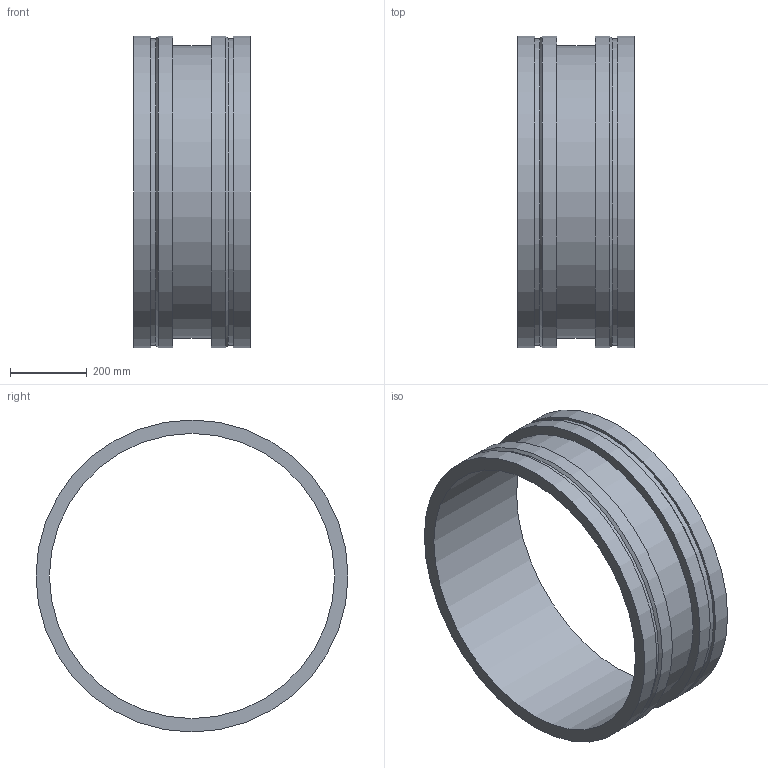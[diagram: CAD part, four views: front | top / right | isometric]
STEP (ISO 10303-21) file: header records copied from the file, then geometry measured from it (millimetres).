
FILE_DESCRIPTION(/* description */ ('VIC ADAPTER NIPPLE No W43 VR','CAx-IF Rec.Pracs.---Representation and Presentation of Product Manufacturing Information (PMI)---4.0---2014-10-13'),/* implementation_level */ '2;1');
FILE_NAME(/* name */ 'C:\Users\kkamble\AppData\Roaming\Autodesk\ApplicationPlugins\Back Up\Victaulic_Vic-Ring_Adapter Nipple_No W43 VR (AGR)\Victaulic_Vic-Ring_Adapter Nipple_No W43 VR (AGR)_30 (750).stp',/* time_stamp */ '2020-09-10T11:31:31+05:00',/* author */ ('cps_temp'),/* organization */ ('Victaulic'),/* preprocessor_version */ 'ST-DEVELOPER v17.2',/* originating_system */ 'Autodesk Inventor 2019',/* authorisation */ '');
FILE_SCHEMA (('CONFIG_CONTROL_DESIGN','AP242_MANAGED_MODEL_BASED_3D_ENGINEERING_MIM_LF { 1 0 10303 442 1 1 4 }'));
Length unit declared in the file: inch
Products named in the file (1): W43 VR-30.0
Bounding box: 304.8 x 812.8 x 812.8 mm (x, y, z)
Volume: 19021015.4 mm3; surface area: 1822079.1 mm2
Topology: 1 solids, 1 shells, 16 faces, 42 edges, 32 vertices
Faces by surface type: cylinder 8, plane 6, cone 2
Full cylindrical faces by diameter (mm): 742.95 x1, 762 x1, 798.322 x2, 812.8 x4
Entity records: 686 total; most frequent: DIRECTION 134, CARTESIAN_POINT 108, ORIENTED_EDGE 84, AXIS2_PLACEMENT_3D 62, EDGE_CURVE 42, CIRCLE 32, VERTEX_POINT 32, EDGE_LOOP 22
